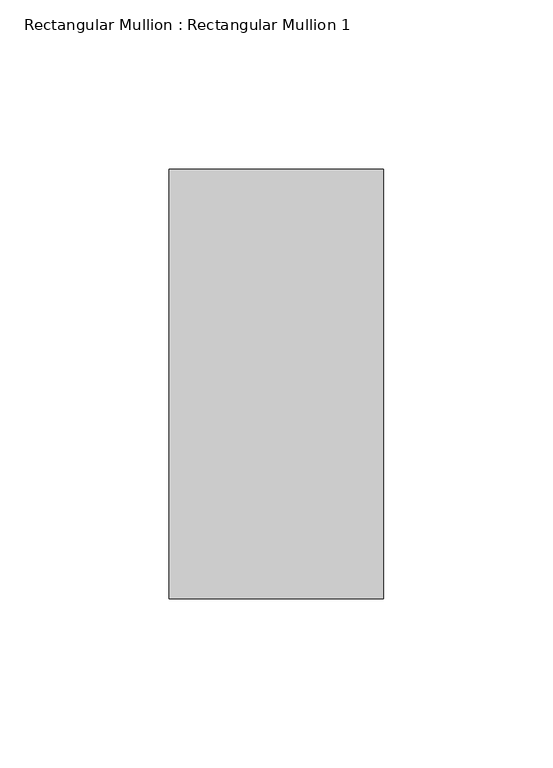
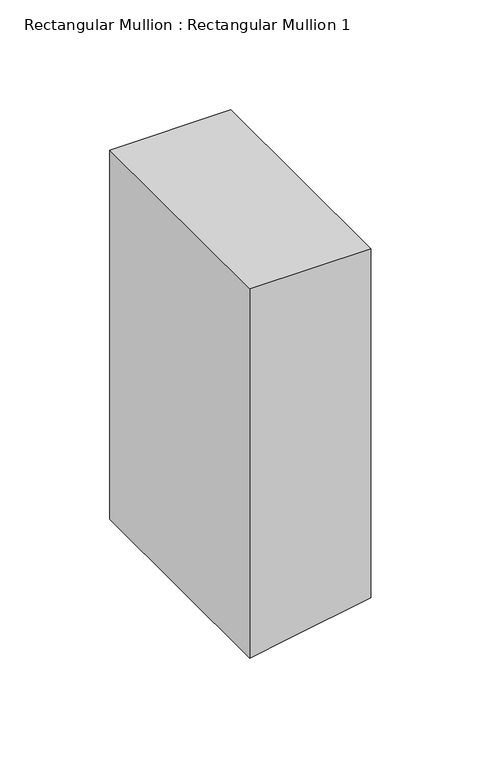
"""IFC4 building model written with IfcOpenShell, lengths in millimetres: member geometry, Rectangular Mullion : Rectangular Mullion 1."""

import ifcopenshell
import ifcopenshell.guid

model = None  # the IFC model being written
_history = None  # IfcOwnerHistory: only IFC2X3 demands one
_inside = {}  # id of a spatial element -> (the spatial element, [elements in it])
_under = {}  # id of a project, library or spatial element -> (it, [spatial elements below it])
_declared = {}  # id of a project -> (the project, [libraries it declares])
_typed = {}  # id of a type object -> (the type object, [elements of that type])
_made_of = {}  # id of a material, layer set ... -> (it, [elements and type objects made of it])


def new_model(schema):
    """Start an empty IFC model of exactly this schema.

    Asked for "IFC4X3", IfcOpenShell would pick the latest addendum, in which some entities
    have other attributes; the version numbers below select the first issue.
    IFC2X3 requires an IfcOwnerHistory on every rooted entity: one is made here for all.
    """
    global model, _history
    if schema == "IFC4X3":
        model = ifcopenshell.file(schema_version=(4, 3, 0, 0))
    else:
        model = ifcopenshell.file(schema=schema)
    _inside.clear()
    _under.clear()
    _declared.clear()
    _typed.clear()
    _made_of.clear()
    _history = None
    if model.schema == "IFC2X3":
        org = make("IfcOrganization", Name="unknown")
        user = make(
            "IfcPersonAndOrganization",
            ThePerson=make("IfcPerson", FamilyName="unknown"),
            TheOrganization=org,
        )
        app = make(
            "IfcApplication",
            ApplicationDeveloper=org,
            Version="unknown",
            ApplicationFullName="unknown",
            ApplicationIdentifier="unknown",
        )
        _history = make(
            "IfcOwnerHistory",
            OwningUser=user,
            OwningApplication=app,
            ChangeAction="ADDED",
            CreationDate=0,
        )
    return model


def make(cls, **values):
    """One entity of the class cls with the attributes given. An attribute that is None is left unset."""
    return model.create_entity(
        cls, **{name: value for name, value in values.items() if value is not None}
    )


def rooted(cls, **values):
    """An entity with a GlobalId (a new one), such as an element, a storey or a relation."""
    return make(cls, GlobalId=ifcopenshell.guid.new(), OwnerHistory=_history, **values)


def si_unit(unit_type, name, prefix=None):
    """IfcSIUnit, for example si_unit("LENGTHUNIT", "METRE", prefix="MILLI")."""
    return make("IfcSIUnit", UnitType=unit_type, Prefix=prefix, Name=name)


def assignment(units):
    """IfcUnitAssignment: the units of a project."""
    return None if units is None else make("IfcUnitAssignment", Units=units)


def point(xyz):
    """IfcCartesianPoint."""
    return None if xyz is None else make("IfcCartesianPoint", Coordinates=xyz)


def direction(xyz):
    """IfcDirection."""
    return None if xyz is None else make("IfcDirection", DirectionRatios=xyz)


def frame(location, z_axis=None, x_axis=None):
    """IfcAxis2Placement3D, a coordinate frame: its origin and axes. An axis left out is left unset."""
    return make(
        "IfcAxis2Placement3D",
        Location=point(location),
        Axis=direction(z_axis),
        RefDirection=direction(x_axis),
    )


def origin():
    """The frame at (0, 0, 0) with its axes left unset."""
    return frame((0.0, 0.0, 0.0))


def place(relative_to, where):
    """IfcLocalPlacement: puts the frame where relative to a parent placement (None: the world)."""
    return make(
        "IfcLocalPlacement", PlacementRelTo=relative_to, RelativePlacement=where
    )


def context(
    kind, dimensions, precision=None, world=None, true_north=None, identifier=None
):
    """IfcGeometricRepresentationContext, for example the 3D "Model" context."""
    return make(
        "IfcGeometricRepresentationContext",
        ContextIdentifier=identifier,
        ContextType=kind,
        CoordinateSpaceDimension=dimensions,
        Precision=precision,
        WorldCoordinateSystem=world,
        TrueNorth=true_north,
    )


def project(units=None, contexts=None):
    """IfcProject with its units and contexts."""
    return rooted(
        "IfcProject",
        Name="project",
        RepresentationContexts=contexts,
        UnitsInContext=assignment(units),
    )


def spatial(cls, under=None, at=None, **own):
    """A site, building, storey or space (cls), placed at a placement, below another one or the project."""
    s = rooted(cls, ObjectPlacement=at, **own)
    if under is not None:
        _under.setdefault(under.id(), (under, []))[1].append(s)
    return s


def polyline(points):
    """IfcPolyline through the points."""
    return make("IfcPolyline", Points=[point(p) for p in points])


def outline(outer, holes=None, kind="AREA"):
    """IfcArbitraryClosedProfileDef: a profile drawn as a closed curve; with holes, ...WithVoids."""
    if holes is None:
        return make("IfcArbitraryClosedProfileDef", ProfileType=kind, OuterCurve=outer)
    return make(
        "IfcArbitraryProfileDefWithVoids",
        ProfileType=kind,
        OuterCurve=outer,
        InnerCurves=holes,
    )


def extrude(swept, where, along, depth):
    """IfcExtrudedAreaSolid: the profile swept, set in the frame where, extruded along a direction by depth."""
    return make(
        "IfcExtrudedAreaSolid",
        SweptArea=swept,
        Position=where,
        ExtrudedDirection=direction(along),
        Depth=depth,
    )


def shape(context_of_items, identifier, shape_type, items):
    """IfcShapeRepresentation: the items that make up one representation, for example the "Body"."""
    return make(
        "IfcShapeRepresentation",
        ContextOfItems=context_of_items,
        RepresentationIdentifier=identifier,
        RepresentationType=shape_type,
        Items=items,
    )


def source(mapping_origin, context_of_items, identifier, shape_type, items):
    """IfcRepresentationMap: a shape defined once, which mapped items show again and again."""
    return make(
        "IfcRepresentationMap",
        MappingOrigin=mapping_origin,
        MappedRepresentation=shape(context_of_items, identifier, shape_type, items),
    )


def transform(
    local_origin,
    x_axis=None,
    y_axis=None,
    z_axis=None,
    scale=None,
    scale2=None,
    scale3=None,
    uniform=True,
):
    """IfcCartesianTransformationOperator3D, or its non-uniform kind. x_axis, y_axis, z_axis: its Axis1, 2, 3."""
    if uniform:
        return make(
            "IfcCartesianTransformationOperator3D",
            Axis1=direction(x_axis),
            Axis2=direction(y_axis),
            LocalOrigin=point(local_origin),
            Scale=scale,
            Axis3=direction(z_axis),
        )
    return make(
        "IfcCartesianTransformationOperator3DnonUniform",
        Axis1=direction(x_axis),
        Axis2=direction(y_axis),
        LocalOrigin=point(local_origin),
        Scale=scale,
        Axis3=direction(z_axis),
        Scale2=scale2,
        Scale3=scale3,
    )


def mapped(mapping_source, mapping_target):
    """IfcMappedItem: shows the shape of a source again, moved by a transform."""
    return make(
        "IfcMappedItem", MappingSource=mapping_source, MappingTarget=mapping_target
    )


def made_of(thing, what):
    """Note that an element or type object is made of a material, layer set ...; save() writes the relation."""
    if what is not None:
        _made_of.setdefault(what.id(), (what, []))[1].append(thing)
    return thing


def element(
    cls,
    number,
    at=None,
    inside=None,
    cuts=None,
    type_object=None,
    material=None,
    context=None,
    identifier="Body",
    shape_type=None,
    held_by="IfcProductDefinitionShape",
    body=None,
    shapes=None,
    **own,
):
    """One element of the class cls, such as IfcWall. Its Tag is "e" and its number.

    at: its placement. inside: the storey or other place that contains it. cuts: it is an
    opening in that element (IfcRelVoidsElement). A single representation is given by context,
    identifier, shape_type and body (its items); several are given by shapes. held_by: the class
    of the entity that holds the representations. save() writes the other relations.
    """
    e = rooted(cls, Tag="e%d" % number, ObjectPlacement=at, **own)
    if body is not None:
        shapes = [shape(context, identifier, shape_type, body)]
    if shapes is not None:
        e.Representation = make(held_by, Representations=shapes)
    if inside is not None:
        _inside.setdefault(inside.id(), (inside, []))[1].append(e)
    if cuts is not None:
        rooted(
            "IfcRelVoidsElement", RelatingBuildingElement=cuts, RelatedOpeningElement=e
        )
    if type_object is not None:
        _typed.setdefault(type_object.id(), (type_object, []))[1].append(e)
    return made_of(e, material)


def aggregate(whole, parts):
    """IfcRelAggregates: a whole, such as a stair, and the parts it consists of."""
    return rooted("IfcRelAggregates", RelatingObject=whole, RelatedObjects=parts)


def save(model, path):
    """Write the relations noted so far, then the file.

    IfcRelAggregates (storeys below a building ...), IfcRelContainedInSpatialStructure (elements
    in a storey), IfcRelDefinesByType, IfcRelAssociatesMaterial and IfcRelDeclares: one each for
    every whole, place, type object, material and project.
    """
    for whole, parts in _under.values():
        aggregate(whole, parts)
    for where, things in _inside.values():
        rooted(
            "IfcRelContainedInSpatialStructure",
            RelatedElements=things,
            RelatingStructure=where,
        )
    for kind, things in _typed.values():
        rooted("IfcRelDefinesByType", RelatedObjects=things, RelatingType=kind)
    for what, things in _made_of.values():
        rooted("IfcRelAssociatesMaterial", RelatedObjects=things, RelatingMaterial=what)
    for by, libraries in _declared.values():
        rooted("IfcRelDeclares", RelatingContext=by, RelatedDefinitions=libraries)
    model.write(path)


def rectangular_mullion_rectangular_mullion_1_2a432e96(model_context):
    return source(origin(), model_context, "Body", "SweptSolid", [
        extrude(outline(polyline([(0.0, 31.75), (0.0, -31.75), (-204.8663272, -31.75), (-201.2122431, -11.0266593), (-193.669564, 31.75), (0.0, 31.75)])), frame((0.0, -63.5, 0.0), z_axis=(0.0, 1.0, 0.0), x_axis=(0.0, 0.0, 1.0)), (0.0, 0.0, 1.0), 127.0),
    ])


if __name__ == "__main__":
    model = new_model("IFC4")
    model_context = context("Model", 3, world=origin())
    ifc_project = project(units=[si_unit("LENGTHUNIT", "METRE", prefix="MILLI")], contexts=[model_context])
    site = spatial("IfcSite", under=ifc_project)
    building = spatial("IfcBuilding", under=site)
    placement = place(None, origin())
    rectangular_mullion_rectangular_mullion_1_shape = rectangular_mullion_rectangular_mullion_1_2a432e96(model_context)
    element("IfcMember", 1, ObjectType="Rectangular Mullion : Rectangular Mullion 1", at=placement, inside=building, context=model_context, shape_type="MappedRepresentation", body=[
        mapped(rectangular_mullion_rectangular_mullion_1_shape, transform((0.0, 0.0, 0.0), x_axis=(1.0, 0.0, 0.0), y_axis=(0.0, 1.0, 0.0), z_axis=(0.0, 0.0, 1.0))),
    ])
    save(model, "model.ifc")
